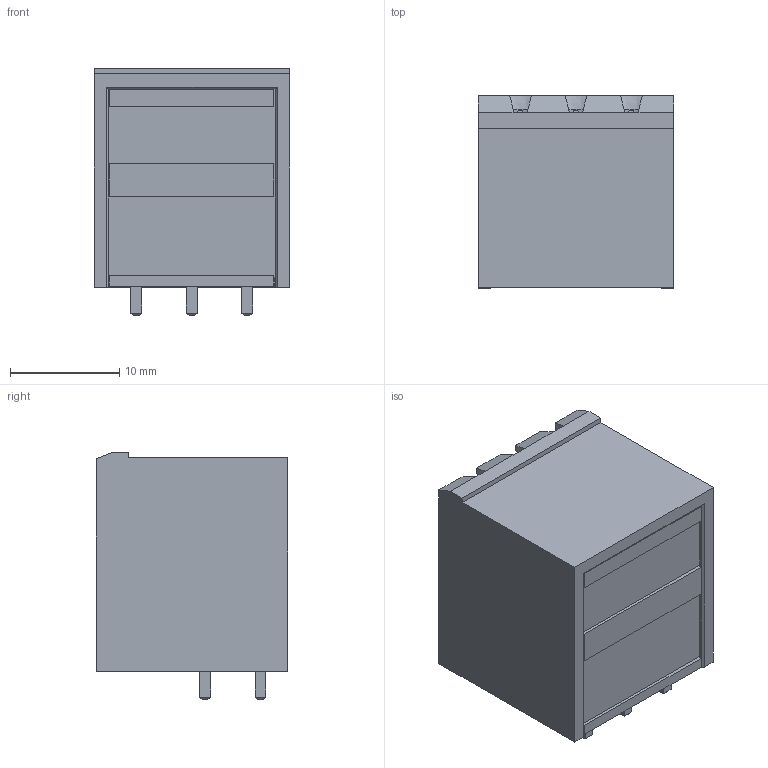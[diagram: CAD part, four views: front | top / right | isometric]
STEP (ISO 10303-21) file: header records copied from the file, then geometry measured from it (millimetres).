
FILE_DESCRIPTION((''),'2;1');
FILE_NAME('333','2019-04-15T',('zhenbing.lai'),(''),'CREO PARAMETRIC BY PTC INC, 2016260','CREO PARAMETRIC BY PTC INC, 2016260','');
FILE_SCHEMA(('CONFIG_CONTROL_DESIGN'));
Length unit declared in the file: millimetre
Products named in the file (1): 333
Bounding box: 17.96 x 17.6 x 22.7 mm (x, y, z)
Volume: 4453.9 mm3; surface area: 3333.9 mm2
Topology: 1 solids, 1 shells, 363 faces, 1001 edges, 644 vertices
Faces by surface type: plane 302, cylinder 45, cone 12, torus 4
Entity records: 11591 total; most frequent: CARTESIAN_POINT 2353, ORIENTED_EDGE 2002, DIRECTION 1779, EDGE_CURVE 1001, VECTOR 815, LINE 815, VERTEX_POINT 644, AXIS2_PLACEMENT_3D 482
